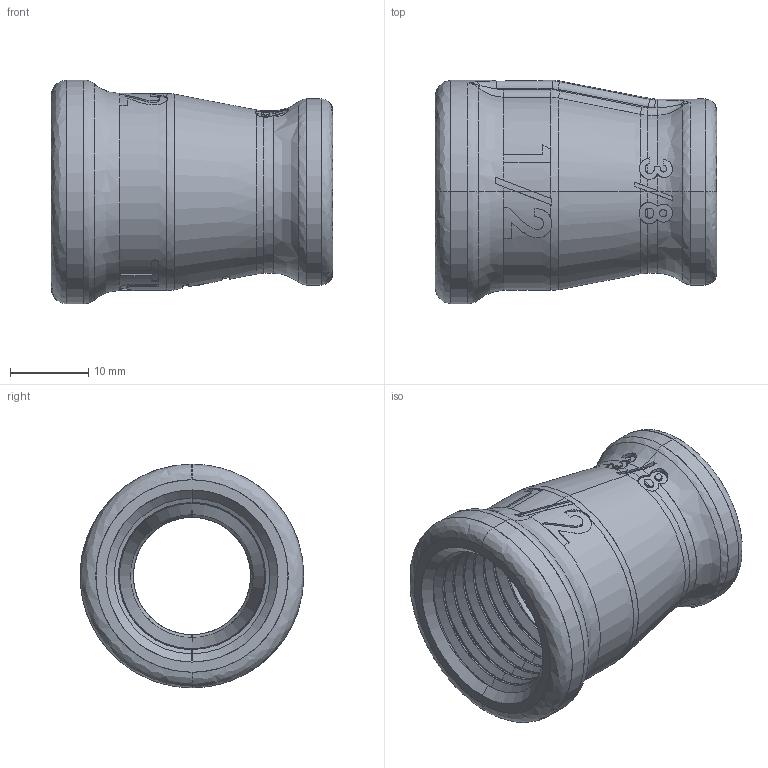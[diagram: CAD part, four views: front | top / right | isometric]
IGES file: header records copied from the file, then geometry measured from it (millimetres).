
Start section: SolidWorks IGES file using analytic representation for surfaces
Global section: file name: C:\Users\Joel Rosa\Desktop\Tubulação\12-32-OK\12-32-026.IGS; native system: SolidWorks 2011; preprocessor: SolidWorks 2011; author: Joel Rosa; date: 121208.223820; units: millimetre
Bounding box: 36 x 28.6 x 28.6 mm (x, y, z)
Surface area: 6357.4 mm2 (no closed solid volume)
Topology: 0 solids, 0 shells, 392 faces, 3798 edges, 3794 vertices
Faces by surface type: bspline 279, revolution 113
